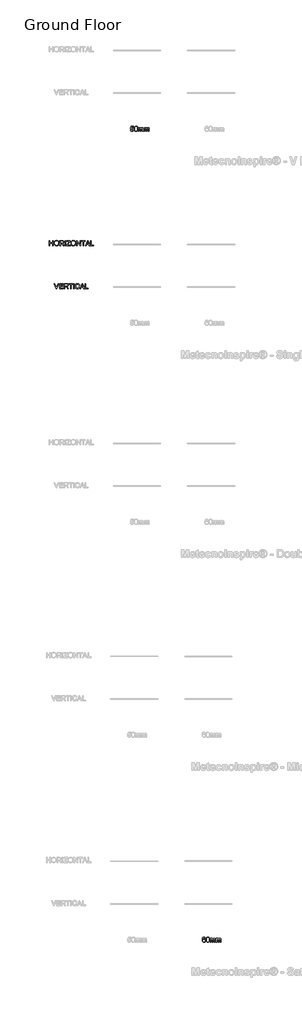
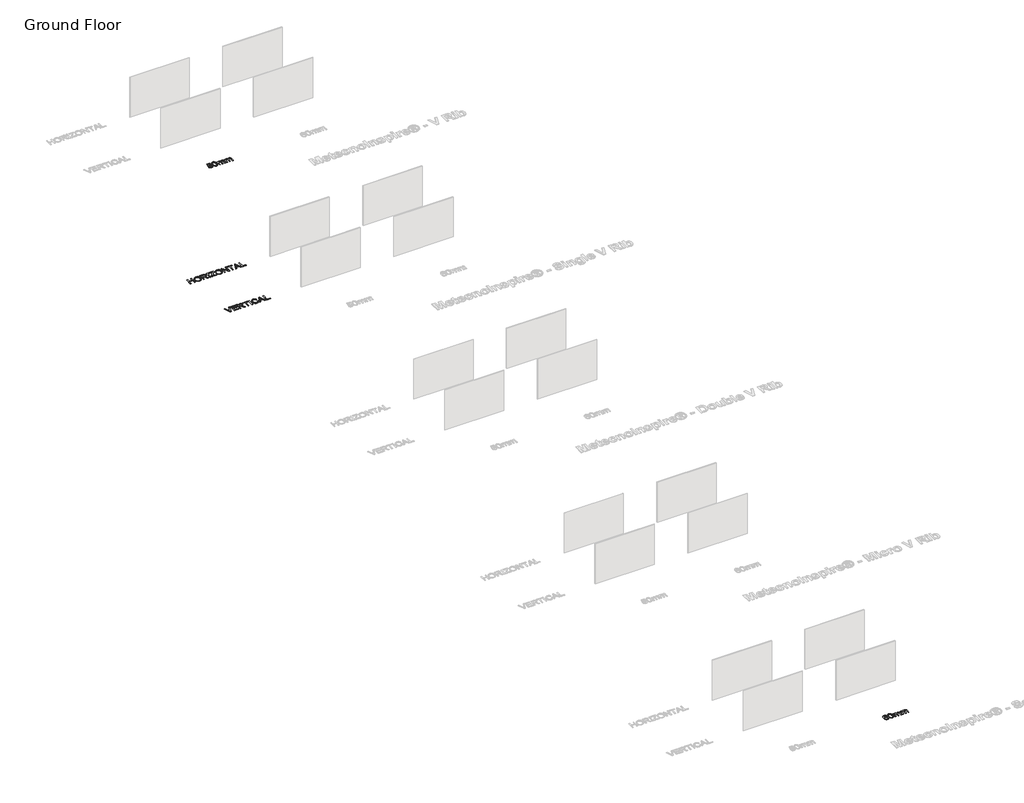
# One storey, part 4 of 14: 4 proxies.
"""IFC4 building model written with IfcOpenShell, lengths in millimetres."""

from ifc_helpers import new_model, si_unit, origin, origin_with_axes, place, context, project, spatial, polyline, outline, extrude, element, save

model = new_model("IFC4")

# Units and contexts
model_context = context("Model", 3, world=origin())
ifc_project = project(units=[si_unit("LENGTHUNIT", "METRE", prefix="MILLI")], contexts=[model_context])

# Site, building, storey
site = spatial("IfcSite", under=ifc_project)
building = spatial("IfcBuilding", under=site)
storey = spatial("IfcBuildingStorey", under=building, Name="Ground Floor", Elevation=0.0)

# Proxies
placement = place(None, origin())
element("IfcBuildingElementProxy", 1, Name="600mm Arial", ObjectType="600mm Arial", at=placement, inside=storey, context=model_context, shape_type="SweptSolid", body=[
    extrude(outline(polyline([(-7004.9680038, -2325.4851257), (-6929.6257712, -2316.0673466), (-6923.9971767, -2340.2877775), (-6915.7934082, -2361.2984379), (-6905.0144657, -2379.099328), (-6891.6603493, -2393.6904476), (-6875.7586501, -2405.0534027), (-6857.3369592, -2413.1697993), (-6836.3952766, -2418.0396372), (-6812.9336023, -2419.6629165), (-6784.2388067, -2417.4050407), (-6758.9285255, -2410.6314135), (-6737.0027585, -2399.3420348), (-6718.461506, -2383.5369045), (-6703.718635, -2363.9977721), (-6693.1880129, -2341.5063866), (-6686.8696396, -2316.0627481), (-6684.7635152, -2287.6668566), (-6686.7362824, -2260.8298651), (-6692.654584, -2236.9727177), (-6702.51842, -2216.0954144), (-6716.3277904, -2198.1979554), (-6734.1286805, -2183.8413605), (-6755.9670754, -2173.5866499), (-6781.8429752, -2167.4338235), (-6811.75638, -2165.3828814), (-6848.3054562, -2168.6570312), (-6877.9015627, -2178.4794804), (-6901.5379809, -2193.525854), (-6920.2079921, -2212.4717768), (-6995.5502248, -2203.0539977), (-6929.6257712, -1892.2672882), (-6637.6746198, -1892.2672882), (-6637.6746198, -1967.6095208), (-6868.7045128, -1967.6095208), (-6900.9309756, -2133.597877), (-6874.3423044, -2114.5415897), (-6847.1098397, -2100.9299559), (-6819.2335815, -2092.7629756), (-6790.7135298, -2090.0406488), (-6754.0218993, -2093.4159661), (-6720.3193101, -2103.541918), (-6689.605762, -2120.4185045), (-6661.8812551, -2144.0457257), (-6638.9300172, -2172.9796446), (-6622.5362757, -2205.7763245), (-6612.7000309, -2242.4357653), (-6609.4212826, -2282.9579671), (-6612.3735356, -2321.9902468), (-6621.2302947, -2358.3001997), (-6635.9915597, -2391.8878258), (-6656.6573308, -2422.7531252), (-6687.9640886, -2454.3633857), (-6724.4947707, -2476.9421431), (-6766.2493772, -2490.4893976), (-6813.2279079, -2495.0051491), (-6852.1084363, -2492.1034798), (-6887.2273713, -2483.3984721), (-6918.5847128, -2468.890126), (-6946.180461, -2448.5784413), (-6969.140896, -2423.4750936), (-6986.5922982, -2394.5917585), (-6998.5346674, -2361.9284359), (-7004.9680038, -2325.4851257)])), origin_with_axes(), (0.0, 0.0, 1.0), 20.0),
    extrude(outline(polyline([(-6543.4968291, -2189.0744819), (-6537.9602051, -2092.5974287), (-6531.039425, -2051.6843523), (-6521.350333, -2015.6549094), (-6508.9343156, -1984.2147944), (-6493.8327597, -1957.0697016), (-6476.0456653, -1934.2196312), (-6455.5730322, -1915.6645831), (-6432.3458828, -1901.3079882), (-6406.295239, -1891.0532776), (-6377.4211009, -1884.9004512), (-6345.7234685, -1882.8495091), (-6299.2967607, -1887.7055514), (-6257.7260952, -1902.2736785), (-6222.9612467, -1925.983673), (-6196.9519896, -1958.2653181), (-6177.3070911, -1998.8427022), (-6161.6353181, -2047.4399138), (-6151.3714104, -2109.1521184), (-6147.9501079, -2189.0744819), (-6153.4315496, -2284.9997121), (-6160.2833518, -2325.7748328), (-6169.8758748, -2361.7582904), (-6182.1953231, -2393.212201), (-6197.2279011, -2420.3986805), (-6214.9736089, -2443.3177288), (-6235.4324463, -2461.9693459), (-6258.6871869, -2476.4225098), (-6284.8206042, -2486.7461983), (-6313.832698, -2492.9404114), (-6345.7234685, -2495.0051491), (-6387.2205575, -2491.4182996), (-6424.008757, -2480.6577513), (-6456.088067, -2462.723504), (-6483.4584875, -2437.6155578), (-6509.7252619, -2392.2281167), (-6528.4872437, -2335.675457), (-6539.7444327, -2267.9575787), (-6543.4968291, -2189.0744819)]), holes=[polyline([(-6468.1545965, -2188.9273291), (-6465.9473045, -2254.4241198), (-6459.3254286, -2307.4405138), (-6448.2889687, -2347.9765112), (-6432.8379249, -2376.0321118), (-6414.1495196, -2395.1205889), (-6393.400975, -2408.7552153), (-6370.5922913, -2416.9359912), (-6345.7234685, -2419.6629165), (-6320.8546456, -2416.9267941), (-6298.0459619, -2408.7184271), (-6277.2974174, -2395.0378154), (-6258.609012, -2375.884959), (-6243.1579682, -2347.7833731), (-6232.1215084, -2307.2565728), (-6225.4996324, -2254.3045582), (-6223.2923405, -2188.9273291), (-6225.426056, -2125.1641823), (-6231.8272028, -2073.0812888), (-6242.4957806, -2032.6786487), (-6257.4317896, -2003.9562619), (-6275.8074953, -1983.9342843), (-6296.7951631, -1969.6328718), (-6320.3947931, -1961.0520242), (-6346.6063853, -1958.1917417), (-6371.3464494, -1960.7117334), (-6393.768857, -1968.2717084), (-6413.8736081, -1980.8716667), (-6431.6607025, -1998.5116084), (-6447.6267811, -2029.781578), (-6459.031123, -2071.9408546), (-6465.8737281, -2124.9894383), (-6468.1545965, -2188.9273291)])]), origin_with_axes(), (0.0, 0.0, 1.0), 20.0),
    extrude(outline(polyline([(-6063.1900962, -2485.58737), (-6063.1900962, -2042.9517534), (-5987.8478636, -2042.9517534), (-5987.8478636, -2115.7923885), (-5965.1863327, -2082.333521), (-5936.0500786, -2056.1219288), (-5901.4323829, -2039.180963), (-5862.3265268, -2033.5339743), (-5820.4247676, -2039.2913276), (-5802.5916878, -2046.4880191), (-5786.8371414, -2056.5633872), (-5761.7475893, -2084.2097192), (-5745.3400523, -2121.0898892), (-5717.8776614, -2082.7841764), (-5686.5525095, -2055.422953), (-5651.3645967, -2039.006219), (-5612.3139229, -2033.5339743), (-5582.1521978, -2035.8102442), (-5555.6784897, -2042.6390537), (-5532.8927987, -2054.0204029), (-5513.7951246, -2069.9542919), (-5498.6981672, -2090.6246615), (-5487.9146262, -2116.2154528), (-5481.4445016, -2146.7266657), (-5479.2877934, -2182.1583004), (-5479.2877934, -2485.58737), (-5554.630026, -2485.58737), (-5554.630026, -2214.531916), (-5556.3774655, -2176.9527702), (-5561.619784, -2151.6240948), (-5571.4422332, -2134.2784587), (-5586.9300652, -2120.6484308), (-5606.8508753, -2111.8192629), (-5629.9722587, -2108.8762069), (-5651.32321, -2110.7616022), (-5670.788766, -2116.4177879), (-5688.3689269, -2125.844764), (-5704.0636925, -2139.0425306), (-5716.971752, -2156.3973637), (-5726.1917945, -2178.2955394), (-5731.72382, -2204.7370578), (-5733.5678285, -2235.7219189), (-5733.5678285, -2485.58737), (-5808.9100611, -2485.58737), (-5808.9100611, -2206.1442065), (-5813.2694628, -2163.5434714), (-5818.7187148, -2146.8232348), (-5826.3476677, -2133.1564186), (-5836.459824, -2122.533826), (-5849.3586865, -2114.9462599), (-5865.044255, -2110.3937202), (-5883.5165297, -2108.8762069), (-5912.5424192, -2112.9229089), (-5939.2874402, -2125.0630147), (-5961.3603599, -2145.0022189), (-5976.3699453, -2172.4462157), (-5984.978384, -2210.5220022), (-5987.8478636, -2262.3565753), (-5987.8478636, -2485.58737), (-6063.1900962, -2485.58737)])), origin_with_axes(), (0.0, 0.0, 1.0), 20.0),
    extrude(outline(polyline([(-5366.2744445, -2485.58737), (-5366.2744445, -2042.9517534), (-5290.9322119, -2042.9517534), (-5290.9322119, -2115.7923885), (-5268.270681, -2082.333521), (-5239.134427, -2056.1219288), (-5204.5167312, -2039.180963), (-5165.4108751, -2033.5339743), (-5123.5091159, -2039.2913276), (-5105.6760362, -2046.4880191), (-5089.9214897, -2056.5633872), (-5064.8319377, -2084.2097192), (-5048.4244007, -2121.0898892), (-5020.9620097, -2082.7841764), (-4989.6368579, -2055.422953), (-4954.448945, -2039.006219), (-4915.3982712, -2033.5339743), (-4885.2365461, -2035.8102442), (-4858.7628381, -2042.6390537), (-4835.977147, -2054.0204029), (-4816.8794729, -2069.9542919), (-4801.7825155, -2090.6246615), (-4790.9989746, -2116.2154528), (-4784.52885, -2146.7266657), (-4782.3721418, -2182.1583004), (-4782.3721418, -2485.58737), (-4857.7143744, -2485.58737), (-4857.7143744, -2214.531916), (-4859.4618139, -2176.9527702), (-4864.7041323, -2151.6240948), (-4874.5265816, -2134.2784587), (-4890.0144136, -2120.6484308), (-4909.9352236, -2111.8192629), (-4933.056607, -2108.8762069), (-4954.4075583, -2110.7616022), (-4973.8731144, -2116.4177879), (-4991.4532752, -2125.844764), (-5007.1480408, -2139.0425306), (-5020.0561003, -2156.3973637), (-5029.2761428, -2178.2955394), (-5034.8081683, -2204.7370578), (-5036.6521768, -2235.7219189), (-5036.6521768, -2485.58737), (-5111.9944094, -2485.58737), (-5111.9944094, -2206.1442065), (-5116.3538111, -2163.5434714), (-5121.8030631, -2146.8232348), (-5129.432016, -2133.1564186), (-5139.5441724, -2122.533826), (-5152.4430348, -2114.9462599), (-5168.1286034, -2110.3937202), (-5186.6008781, -2108.8762069), (-5215.6267675, -2112.9229089), (-5242.3717885, -2125.0630147), (-5264.4447082, -2145.0022189), (-5279.4542937, -2172.4462157), (-5288.0627323, -2210.5220022), (-5290.9322119, -2262.3565753), (-5290.9322119, -2485.58737), (-5366.2744445, -2485.58737)])), origin_with_axes(), (0.0, 0.0, 1.0), 20.0),
])
element("IfcBuildingElementProxy", 2, Name="600mm Arial", ObjectType="600mm Arial", at=placement, inside=storey, context=model_context, shape_type="SweptSolid", body=[
    extrude(outline(polyline([(-15825.7847773, -21148.0040034), (-16065.6438382, -20545.2661425), (-15985.0041048, -20545.2661425), (-15824.4604021, -20979.5140496), (-15791.9396338, -21077.3706603), (-15759.8603238, -20979.5140496), (-15598.8751627, -20545.2661425), (-15518.2354294, -20545.2661425), (-15747.9409471, -21148.0040034), (-15825.7847773, -21148.0040034)])), origin_with_axes(), (0.0, 0.0, 1.0), 20.0),
    extrude(outline(polyline([(-15448.1906975, -21148.0040034), (-15448.1906975, -20545.2661425), (-15014.97286, -20545.2661425), (-15014.97286, -20620.6083751), (-15372.8484649, -20620.6083751), (-15372.8484649, -20799.5461775), (-15033.8084181, -20799.5461775), (-15033.8084181, -20874.8884102), (-15372.8484649, -20874.8884102), (-15372.8484649, -21072.6617708), (-15005.5550809, -21072.6617708), (-15005.5550809, -21148.0040034), (-15448.1906975, -21148.0040034)])), origin_with_axes(), (0.0, 0.0, 1.0), 20.0),
    extrude(outline(polyline([(-14892.541732, -21148.0040034), (-14892.541732, -20545.2661425), (-14632.8170434, -20545.2661425), (-14563.0114348, -20549.3312385), (-14512.2253253, -20561.5265267), (-14492.6264121, -20571.2202172), (-14475.106032, -20584.0409048), (-14459.6641853, -20599.9885893), (-14446.3008718, -20619.0632707), (-14435.5173308, -20640.2394781), (-14427.8148016, -20662.4917402), (-14423.193284, -20685.8200573), (-14421.6527781, -20710.2244291), (-14424.2049595, -20741.181699), (-14431.8615035, -20769.6005831), (-14444.6224102, -20795.4810815), (-14462.4876796, -20818.8231941), (-14485.6872379, -20838.8819599), (-14514.4510114, -20854.9124178), (-14548.7790001, -20866.9145679), (-14588.6712039, -20874.8884102), (-14563.8391693, -20891.1120061), (-14545.8497397, -20907.1148729), (-14514.9844403, -20943.7191315), (-14484.7813285, -20984.6643975), (-14384.2759674, -21148.0040034), (-14471.8318823, -21148.0040034), (-14550.2643237, -21023.0712778), (-14606.9181509, -20940.3714053), (-14627.9793951, -20916.2567405), (-14646.7229828, -20901.3023374), (-14682.5546891, -20886.9549396), (-14726.2590701, -20884.3061892), (-14817.1994994, -20884.3061892), (-14817.1994994, -21148.0040034), (-14892.541732, -21148.0040034)]), holes=[polyline([(-14817.1994994, -20808.9639566), (-14648.5623928, -20808.9639566), (-14600.1307281, -20806.2968122), (-14562.5515823, -20798.2953788), (-14534.2614569, -20784.4262275), (-14513.6968533, -20764.1559296), (-14501.1704714, -20739.6365946), (-14496.9950107, -20713.0203323), (-14498.986172, -20693.7525128), (-14504.9596559, -20676.268921), (-14514.9154624, -20660.5695568), (-14528.8535915, -20646.6544204), (-14547.09594, -20635.2592755), (-14569.9644045, -20627.1198864), (-14597.4589851, -20622.2362529), (-14629.5796818, -20620.6083751), (-14817.1994994, -20620.6083751), (-14817.1994994, -20808.9639566)])]), origin_with_axes(), (0.0, 0.0, 1.0), 20.0),
    extrude(outline(polyline([(-14139.1194058, -21148.0040034), (-14139.1194058, -20620.6083751), (-14336.8927664, -20620.6083751), (-14336.8927664, -20545.2661425), (-13866.0038126, -20545.2661425), (-13866.0038126, -20620.6083751), (-14063.7771732, -20620.6083751), (-14063.7771732, -21148.0040034), (-14139.1194058, -21148.0040034)])), origin_with_axes(), (0.0, 0.0, 1.0), 20.0),
    extrude(outline(polyline([(-13771.8260219, -21148.0040034), (-13771.8260219, -20545.2661425), (-13696.4837892, -20545.2661425), (-13696.4837892, -21148.0040034), (-13771.8260219, -21148.0040034)])), origin_with_axes(), (0.0, 0.0, 1.0), 20.0),
    extrude(outline(polyline([(-13121.9992656, -20933.7495294), (-13046.657033, -20953.1736987), (-13061.5654508, -21000.0280693), (-13081.4218815, -21040.9687369), (-13106.226325, -21075.9957013), (-13135.9787814, -21105.1089627), (-13170.0078659, -21127.9958214), (-13207.6421941, -21144.3435775), (-13248.8817657, -21154.1522312), (-13293.7265809, -21157.4217825), (-13339.6704436, -21154.947776), (-13381.1169489, -21147.5257568), (-13418.0660968, -21135.1557247), (-13450.5178873, -21117.8376798), (-13478.9183773, -21095.8291394), (-13503.7136238, -21069.387621), (-13524.9036267, -21038.5131246), (-13542.4883861, -21003.2056501), (-13556.2977565, -20964.9919078), (-13566.1615925, -20925.3986081), (-13572.0798941, -20884.4257509), (-13574.0526613, -20842.0733362), (-13571.8223767, -20796.6307127), (-13565.1315229, -20754.1863275), (-13553.9800999, -20714.7401806), (-13538.3681077, -20678.2922719), (-13518.6450343, -20645.4450083), (-13495.1603674, -20616.8007964), (-13467.9141071, -20592.3596364), (-13436.9062534, -20572.1215281), (-13403.1898686, -20556.2520186), (-13367.8180148, -20544.9166546), (-13330.7906919, -20538.1154362), (-13292.1079001, -20535.8483634), (-13249.0151229, -20538.7822223), (-13209.4999981, -20547.583799), (-13173.5625257, -20562.2530936), (-13141.2027057, -20582.790106), (-13112.953967, -20608.6522102), (-13089.3497385, -20639.2967804), (-13070.3900202, -20674.7238166), (-13056.074812, -20714.9333187), (-13131.4170447, -20732.88596), (-13143.281239, -20703.2576638), (-13157.5366663, -20677.942784), (-13174.1833266, -20656.9413206), (-13193.2212198, -20640.2532736), (-13214.7607107, -20627.5383522), (-13238.9121636, -20618.4562654), (-13265.6755788, -20613.0070134), (-13295.0509561, -20611.190596), (-13328.8501144, -20613.2047499), (-13359.7613991, -20619.2472117), (-13387.78481, -20629.3179813), (-13412.9203474, -20643.4170588), (-13434.8507128, -20660.9098477), (-13453.2586081, -20681.1617515), (-13468.1440334, -20704.1727703), (-13479.5069885, -20729.9429041), (-13493.9095686, -20785.0884151), (-13498.7104286, -20841.9261834), (-13493.0266518, -20911.5294569), (-13485.9219308, -20942.7994265), (-13475.9753213, -20971.7149513), (-13463.0258751, -20997.7012157), (-13446.9126437, -21020.1834042), (-13427.6356272, -21039.1615166), (-13405.1948255, -21054.635553), (-13380.680089, -21066.6423016), (-13355.1812682, -21075.2185506), (-13328.6983631, -21080.3643), (-13301.2313736, -21082.0795498), (-13268.4760805, -21079.7434992), (-13238.3419466, -21072.7353472), (-13210.8289718, -21061.0550938), (-13185.9371563, -21044.7027391), (-13164.2551112, -21023.7518595), (-13146.3714478, -20998.2760313), (-13132.2861659, -20968.2752546), (-13121.9992656, -20933.7495294)])), origin_with_axes(), (0.0, 0.0, 1.0), 20.0),
    extrude(outline(polyline([(-13013.2533478, -21148.0040034), (-12772.658523, -20545.2661425), (-12708.499903, -20545.2661425), (-12467.9050782, -21148.0040034), (-12547.5147419, -21148.0040034), (-12616.5294042, -20959.6484218), (-12864.7761745, -20959.6484218), (-12933.643684, -21148.0040034), (-13013.2533478, -21148.0040034)]), holes=[polyline([(-12837.1114485, -20884.3061892), (-12644.0469774, -20884.3061892), (-12698.3463599, -20736.1233216), (-12740.579213, -20620.6083751), (-12778.1031765, -20723.1738753), (-12837.1114485, -20884.3061892)])]), origin_with_axes(), (0.0, 0.0, 1.0), 20.0),
    extrude(outline(polyline([(-12387.4124976, -21148.0040034), (-12387.4124976, -20545.2661425), (-12312.070265, -20545.2661425), (-12312.070265, -21072.6617708), (-12010.7013345, -21072.6617708), (-12010.7013345, -21148.0040034), (-12387.4124976, -21148.0040034)])), origin_with_axes(), (0.0, 0.0, 1.0), 20.0),
])
element("IfcBuildingElementProxy", 3, Name="600mm Arial", ObjectType="600mm Arial", at=placement, inside=storey, context=model_context, shape_type="SweptSolid", body=[
    extrude(outline(polyline([(-16653.6664193, -16043.2040034), (-16653.6664193, -15440.4661425), (-16578.3241867, -15440.4661425), (-16578.3241867, -15685.3283985), (-16258.1196981, -15685.3283985), (-16258.1196981, -15440.4661425), (-16182.7774654, -15440.4661425), (-16182.7774654, -16043.2040034), (-16258.1196981, -16043.2040034), (-16258.1196981, -15760.6706311), (-16578.3241867, -15760.6706311), (-16578.3241867, -16043.2040034), (-16653.6664193, -16043.2040034)])), origin_with_axes(), (0.0, 0.0, 1.0), 20.0),
    extrude(outline(polyline([(-16079.1818956, -15749.781324), (-16074.1603064, -15679.0836016), (-16059.0955387, -15616.4976772), (-16033.9875925, -15562.0235507), (-16017.6674275, -15537.8284118), (-15998.8364679, -15515.6612223), (-15955.7482892, -15478.6430965), (-15906.8291809, -15452.2015781), (-15852.0791429, -15436.3366671), (-15791.4981754, -15431.0483634), (-15750.9483825, -15433.5315669), (-15712.4403346, -15440.9811773), (-15675.9740318, -15453.3971946), (-15641.5494741, -15470.7796189), (-15610.1323518, -15492.6042182), (-15582.6883549, -15518.3467609), (-15559.2174836, -15548.0072467), (-15539.7197379, -15581.5856758), (-15524.3974528, -15618.318693), (-15513.4529634, -15657.4429432), (-15506.8862698, -15698.9584264), (-15504.6973719, -15742.8651425), (-15507.0012329, -15787.3512728), (-15513.9128159, -15829.427776), (-15525.4321209, -15869.0946521), (-15541.5591479, -15906.3519012), (-15561.9122192, -15940.2154388), (-15586.1096575, -15969.7011807), (-15614.1514626, -15994.8091269), (-15646.0376345, -16015.5392773), (-15680.512776, -16031.7628733), (-15716.3214897, -16043.3511562), (-15753.4637756, -16050.3041259), (-15791.9396338, -16052.6217825), (-15833.1975995, -16050.0604041), (-15872.2114851, -16042.3762689), (-15908.9812905, -16029.5693769), (-15943.5070158, -16011.6397282), (-15974.88735, -15989.2816999), (-16002.2209822, -15963.1896694), (-16025.5079125, -15933.3636367), (-16044.7481409, -15899.8036017), (-16059.8129086, -15863.8569322), (-16070.5734569, -15826.8709961), (-16077.0297859, -15788.8457934), (-16079.1818956, -15749.781324)]), holes=[polyline([(-16003.839663, -15750.517088), (-16000.0734711, -15800.4662659), (-15988.7748953, -15844.8052434), (-15969.9439357, -15883.5340204), (-15943.5805922, -15916.652597), (-15911.5334719, -15943.1768889), (-15875.6511818, -15962.1228116), (-15835.9337219, -15973.4903653), (-15792.3810922, -15977.2795498), (-15748.0835014, -15973.4535771), (-15707.896992, -15961.9756588), (-15671.8215638, -15942.8457951), (-15639.857217, -15916.0639858), (-15613.6870115, -15882.2464334), (-15594.9940077, -15842.0093402), (-15583.7782053, -15795.3527062), (-15580.0396046, -15742.2765313), (-15581.6398912, -15707.7967913), (-15586.4407513, -15675.5795256), (-15594.4421847, -15645.6247341), (-15605.6441914, -15617.932417), (-15619.9226114, -15592.8658575), (-15637.1532843, -15570.7883393), (-15657.3362103, -15551.6998622), (-15680.4713892, -15535.6004264), (-15705.8414513, -15522.8211256), (-15732.7290266, -15513.6930536), (-15761.1341152, -15508.2162104), (-15791.056717, -15506.390596), (-15833.096432, -15509.9084676), (-15872.1011205, -15520.4620823), (-15908.0707826, -15538.0514402), (-15941.0054182, -15562.6765413), (-15968.4954003, -15595.5238049), (-15988.1311018, -15637.7796506), (-15999.9125227, -15689.4440783), (-16003.839663, -15750.517088)])]), origin_with_axes(), (0.0, 0.0, 1.0), 20.0),
    extrude(outline(polyline([(-15401.1018021, -16043.2040034), (-15401.1018021, -15440.4661425), (-15141.3771135, -15440.4661425), (-15071.5715049, -15444.5312385), (-15020.7853955, -15456.7265267), (-15001.1864822, -15466.4202172), (-14983.6661022, -15479.2409048), (-14968.2242554, -15495.1885893), (-14954.8609419, -15514.2632707), (-14944.077401, -15535.4394781), (-14936.3748717, -15557.6917402), (-14931.7533541, -15581.0200573), (-14930.2128483, -15605.4244291), (-14932.7650296, -15636.381699), (-14940.4215736, -15664.8005831), (-14953.1824803, -15690.6810815), (-14971.0477497, -15714.0231941), (-14994.2473081, -15734.0819599), (-15023.0110816, -15750.1124178), (-15057.3390702, -15762.1145679), (-15097.2312741, -15770.0884102), (-15072.3992394, -15786.3120061), (-15054.4098098, -15802.3148729), (-15023.5445104, -15838.9191315), (-14993.3413986, -15879.8643975), (-14892.8360376, -16043.2040034), (-14980.3919524, -16043.2040034), (-15058.8243938, -15918.2712778), (-15115.478221, -15835.5714053), (-15136.5394653, -15811.4567405), (-15155.2830529, -15796.5023374), (-15191.1147592, -15782.1549396), (-15234.8191403, -15779.5061892), (-15325.7595695, -15779.5061892), (-15325.7595695, -16043.2040034), (-15401.1018021, -16043.2040034)]), holes=[polyline([(-15325.7595695, -15704.1639566), (-15157.1224629, -15704.1639566), (-15108.6907982, -15701.4968122), (-15071.1116524, -15693.4953788), (-15042.821527, -15679.6262275), (-15022.2569235, -15659.3559296), (-15009.7305415, -15634.8365946), (-15005.5550809, -15608.2203323), (-15007.5462422, -15588.9525128), (-15013.5197261, -15571.468921), (-15023.4755326, -15555.7695568), (-15037.4136617, -15541.8544204), (-15055.6560101, -15530.4592755), (-15078.5244746, -15522.3198864), (-15106.0190552, -15517.4362529), (-15138.1397519, -15515.8083751), (-15325.7595695, -15515.8083751), (-15325.7595695, -15704.1639566)])]), origin_with_axes(), (0.0, 0.0, 1.0), 20.0),
    extrude(outline(polyline([(-14788.9461621, -16043.2040034), (-14788.9461621, -15440.4661425), (-14713.6039295, -15440.4661425), (-14713.6039295, -16043.2040034), (-14788.9461621, -16043.2040034)])), origin_with_axes(), (0.0, 0.0, 1.0), 20.0),
    extrude(outline(polyline([(-14610.0083597, -16043.2040034), (-14610.0083597, -15965.0658676), (-14301.7232477, -15587.6189406), (-14243.1564341, -15515.8083751), (-14572.3372434, -15515.8083751), (-14572.3372434, -15440.4661425), (-14148.5371849, -15440.4661425), (-14148.5371849, -15515.8083751), (-14485.9585509, -15928.8662793), (-14517.7435553, -15967.8617708), (-14139.1194058, -15967.8617708), (-14139.1194058, -16043.2040034), (-14610.0083597, -16043.2040034)])), origin_with_axes(), (0.0, 0.0, 1.0), 20.0),
    extrude(outline(polyline([(-14082.6127314, -15749.781324), (-14077.5911421, -15679.0836016), (-14062.5263744, -15616.4976772), (-14037.4184283, -15562.0235507), (-14021.0982633, -15537.8284118), (-14002.2673036, -15515.6612223), (-13959.179125, -15478.6430965), (-13910.2600166, -15452.2015781), (-13855.5099787, -15436.3366671), (-13794.9290112, -15431.0483634), (-13754.3792182, -15433.5315669), (-13715.8711704, -15440.9811773), (-13679.4048676, -15453.3971946), (-13644.9803099, -15470.7796189), (-13613.5631875, -15492.6042182), (-13586.1191907, -15518.3467609), (-13562.6483194, -15548.0072467), (-13543.1505737, -15581.5856758), (-13527.8282886, -15618.318693), (-13516.8837992, -15657.4429432), (-13510.3171056, -15698.9584264), (-13508.1282077, -15742.8651425), (-13510.4320687, -15787.3512728), (-13517.3436517, -15829.427776), (-13528.8629567, -15869.0946521), (-13544.9899836, -15906.3519012), (-13565.343055, -15940.2154388), (-13589.5404932, -15969.7011807), (-13617.5822983, -15994.8091269), (-13649.4684703, -16015.5392773), (-13683.9436117, -16031.7628733), (-13719.7523254, -16043.3511562), (-13756.8946114, -16050.3041259), (-13795.3704695, -16052.6217825), (-13836.6284353, -16050.0604041), (-13875.6423209, -16042.3762689), (-13912.4121263, -16029.5693769), (-13946.9378516, -16011.6397282), (-13978.3181857, -15989.2816999), (-14005.651818, -15963.1896694), (-14028.9387483, -15933.3636367), (-14048.1789766, -15899.8036017), (-14063.2437443, -15863.8569322), (-14074.0042927, -15826.8709961), (-14080.4606217, -15788.8457934), (-14082.6127314, -15749.781324)]), holes=[polyline([(-14007.2704988, -15750.517088), (-14003.5043068, -15800.4662659), (-13992.2057311, -15844.8052434), (-13973.3747714, -15883.5340204), (-13947.011428, -15916.652597), (-13914.9643077, -15943.1768889), (-13879.0820176, -15962.1228116), (-13839.3645576, -15973.4903653), (-13795.8119279, -15977.2795498), (-13751.5143372, -15973.4535771), (-13711.3278278, -15961.9756588), (-13675.2523996, -15942.8457951), (-13643.2880527, -15916.0639858), (-13617.1178473, -15882.2464334), (-13598.4248434, -15842.0093402), (-13587.2090411, -15795.3527062), (-13583.4704403, -15742.2765313), (-13585.070727, -15707.7967913), (-13589.871587, -15675.5795256), (-13597.8730204, -15645.6247341), (-13609.0750272, -15617.932417), (-13623.3534471, -15592.8658575), (-13640.5841201, -15570.7883393), (-13660.767046, -15551.6998622), (-13683.902225, -15535.6004264), (-13709.2722871, -15522.8211256), (-13736.1598624, -15513.6930536), (-13764.564951, -15508.2162104), (-13794.4875528, -15506.390596), (-13836.5272678, -15509.9084676), (-13875.5319563, -15520.4620823), (-13911.5016184, -15538.0514402), (-13944.436254, -15562.6765413), (-13971.9262361, -15595.5238049), (-13991.5619376, -15637.7796506), (-14003.3433585, -15689.4440783), (-14007.2704988, -15750.517088)])]), origin_with_axes(), (0.0, 0.0, 1.0), 20.0),
    extrude(outline(polyline([(-13404.5326379, -16043.2040034), (-13404.5326379, -15440.4661425), (-13323.8929045, -15440.4661425), (-13008.9859167, -15917.9769722), (-13008.9859167, -15440.4661425), (-12933.643684, -15440.4661425), (-12933.643684, -16043.2040034), (-13014.2834174, -16043.2040034), (-13329.1904053, -15565.5460208), (-13329.1904053, -16043.2040034), (-13404.5326379, -16043.2040034)])), origin_with_axes(), (0.0, 0.0, 1.0), 20.0),
    extrude(outline(polyline([(-12651.1103118, -16043.2040034), (-12651.1103118, -15515.8083751), (-12848.8836724, -15515.8083751), (-12848.8836724, -15440.4661425), (-12377.9947185, -15440.4661425), (-12377.9947185, -15515.8083751), (-12575.7680791, -15515.8083751), (-12575.7680791, -16043.2040034), (-12651.1103118, -16043.2040034)])), origin_with_axes(), (0.0, 0.0, 1.0), 20.0),
    extrude(outline(polyline([(-12363.4265915, -16043.2040034), (-12122.8317667, -15440.4661425), (-12058.6731467, -15440.4661425), (-11818.0783219, -16043.2040034), (-11897.6879856, -16043.2040034), (-11966.7026479, -15854.8484218), (-12214.9494183, -15854.8484218), (-12283.8169278, -16043.2040034), (-12363.4265915, -16043.2040034)]), holes=[polyline([(-12187.2846922, -15779.5061892), (-11994.2202212, -15779.5061892), (-12048.5196037, -15631.3233216), (-12090.7524567, -15515.8083751), (-12128.2764202, -15618.3738753), (-12187.2846922, -15779.5061892)])]), origin_with_axes(), (0.0, 0.0, 1.0), 20.0),
    extrude(outline(polyline([(-11737.5857413, -16043.2040034), (-11737.5857413, -15440.4661425), (-11662.2435087, -15440.4661425), (-11662.2435087, -15967.8617708), (-11360.8745783, -15967.8617708), (-11360.8745783, -16043.2040034), (-11737.5857413, -16043.2040034)])), origin_with_axes(), (0.0, 0.0, 1.0), 20.0),
])
element("IfcBuildingElementProxy", 4, Name="600mm Arial", ObjectType="600mm Arial", at=placement, inside=storey, context=model_context, shape_type="SweptSolid", body=[
    extrude(outline(polyline([(1909.1693094, -98197.0982382), (1833.8270768, -98206.5160173), (1821.6869709, -98169.1759948), (1805.279434, -98143.6817725), (1789.0834291, -98129.9689712), (1771.1031966, -98120.174113), (1751.3387364, -98114.2971982), (1729.7900485, -98112.3382265), (1694.7676826, -98116.8999633), (1661.8054558, -98130.5851735), (1633.4969363, -98159.4087278), (1610.3755529, -98199.084801), (1601.3394514, -98224.3904838), (1594.7589622, -98255.2051994), (1588.9648208, -98333.3617292), (1619.1863267, -98298.10024), (1655.4043091, -98273.2498112), (1695.5954171, -98258.5161373), (1737.7362996, -98253.6049127), (1773.935888, -98256.9618359), (1807.3395731, -98267.0326055), (1837.9473551, -98283.8172215), (1865.759234, -98307.315684), (1888.8714203, -98336.1300413), (1905.3801248, -98368.8623418), (1915.2853476, -98405.5125856), (1918.5870885, -98446.0807726), (1917.032787, -98473.547762), (1912.3698827, -98500.0306672), (1904.5983756, -98525.529488), (1893.7182656, -98550.0442244), (1880.1158288, -98572.6597701), (1864.1773414, -98592.4610185), (1845.9028033, -98609.4479696), (1825.2922145, -98623.6206234), (1802.7870334, -98634.7904405), (1778.8287185, -98642.7688813), (1753.4172697, -98647.5559458), (1726.552687, -98649.1516339), (1681.6388939, -98644.920991), (1641.0753054, -98632.2290621), (1604.8619215, -98611.0758474), (1572.9987422, -98581.4613468), (1547.0216748, -98542.1347615), (1528.4666267, -98491.8452928), (1517.3335978, -98430.5929406), (1513.6225882, -98358.3777049), (1517.7428665, -98277.4160748), (1530.1037016, -98208.3186391), (1550.7050933, -98151.0853977), (1564.0959979, -98126.9178499), (1579.5470417, -98105.7163506), (1610.8078143, -98075.6511946), (1647.0533878, -98054.1760831), (1688.2837624, -98041.2910162), (1734.4989381, -98036.9959939), (1769.1994073, -98039.6539413), (1800.6073326, -98047.6277836), (1828.7227141, -98060.9175207), (1853.5455517, -98079.5231526), (1874.4044608, -98102.8192799), (1890.6280568, -98130.1805033), (1902.2163397, -98161.6068227), (1909.1693094, -98197.0982382)]), holes=[polyline([(1588.9648208, -98444.9035502), (1593.3242224, -98478.2888412), (1606.4024274, -98510.1658161), (1626.7095135, -98537.5730248), (1652.7555588, -98557.5490171), (1684.1910752, -98569.7443052), (1720.6665751, -98573.8094013), (1746.8551746, -98571.7032769), (1770.3858267, -98565.3849036), (1791.2585314, -98554.8542815), (1809.4732887, -98540.1114105), (1824.2483493, -98521.754099), (1834.8019641, -98500.3801551), (1841.1341329, -98475.9895788), (1843.2448559, -98448.5823701), (1841.1617241, -98422.2466178), (1834.9123287, -98398.8631185), (1824.4966697, -98378.4318722), (1809.9147471, -98360.9528789), (1791.6448075, -98346.9503704), (1770.1650975, -98336.9485787), (1745.4756171, -98330.9475037), (1717.5763663, -98328.9471453), (1691.7372547, -98330.9475037), (1667.9306911, -98336.9485787), (1646.1566755, -98346.9503704), (1626.4152079, -98360.9528789), (1610.0306635, -98378.2019459), (1598.3274176, -98397.9434135), (1591.30547, -98420.1772816), (1588.9648208, -98444.9035502)])]), origin_with_axes(), (0.0, 0.0, 1.0), 20.0),
    extrude(outline(polyline([(1984.511542, -98343.2209667), (1990.048166, -98246.7439135), (1996.9689461, -98205.8308371), (2006.6580381, -98169.8013942), (2019.0740554, -98138.3612792), (2034.1756114, -98111.2161865), (2051.9627058, -98088.366116), (2072.4353388, -98069.8110679), (2095.6624883, -98055.454473), (2121.7131321, -98045.1997624), (2150.5872702, -98039.0469361), (2182.2849026, -98036.9959939), (2228.7116104, -98041.8520363), (2270.2822759, -98056.4201633), (2305.0471244, -98080.1301579), (2331.0563815, -98112.4118029), (2350.70128, -98152.989187), (2366.373053, -98201.5863986), (2376.6369607, -98263.2986033), (2380.0582632, -98343.2209667), (2374.5768215, -98439.146197), (2367.7250193, -98479.9213176), (2358.1324963, -98515.9047753), (2345.813048, -98547.3586858), (2330.78047, -98574.5451653), (2313.0347622, -98597.4642136), (2292.5759248, -98616.1158307), (2269.3211841, -98630.5689946), (2243.1877669, -98640.8926831), (2214.1756731, -98647.0868962), (2182.2849026, -98649.1516339), (2140.7878136, -98645.5647845), (2103.999614, -98634.8042361), (2071.9203041, -98616.8699888), (2044.5498836, -98591.7620427), (2018.2831092, -98546.3746015), (1999.5211274, -98489.8219418), (1988.2639384, -98422.1040635), (1984.511542, -98343.2209667)]), holes=[polyline([(2059.8537746, -98343.0738139), (2062.0610666, -98408.5706046), (2068.6829425, -98461.5869987), (2079.7194024, -98502.122996), (2095.1704462, -98530.1785967), (2113.8588515, -98549.2670737), (2134.607396, -98562.9017001), (2157.4160797, -98571.082476), (2182.2849026, -98573.8094013), (2207.1537255, -98571.073279), (2229.9624092, -98562.8649119), (2250.7109537, -98549.1843002), (2269.3993591, -98530.0314439), (2284.8504029, -98501.929858), (2295.8868627, -98461.4030577), (2302.5087386, -98408.451043), (2304.7160306, -98343.0738139), (2302.582315, -98279.3106671), (2296.1811683, -98227.2277736), (2285.5125905, -98186.8251335), (2270.5765815, -98158.1027467), (2252.2008758, -98138.0807692), (2231.213208, -98123.7793566), (2207.613578, -98115.1985091), (2181.4019858, -98112.3382265), (2156.6619216, -98114.8582182), (2134.239514, -98122.4181932), (2114.134763, -98135.0181515), (2096.3476685, -98152.6580932), (2080.3815899, -98183.9280628), (2068.9772481, -98226.0873395), (2062.134643, -98279.1359232), (2059.8537746, -98343.0738139)])]), origin_with_axes(), (0.0, 0.0, 1.0), 20.0),
    extrude(outline(polyline([(2464.8182749, -98639.7338548), (2464.8182749, -98197.0982382), (2540.1605075, -98197.0982382), (2540.1605075, -98269.9388733), (2562.8220384, -98236.4800058), (2591.9582924, -98210.2684137), (2626.5759882, -98193.3274478), (2665.6818443, -98187.6804592), (2707.5836035, -98193.4378124), (2725.4166832, -98200.6345039), (2741.1712297, -98210.7098721), (2766.2607818, -98238.356204), (2782.6683187, -98275.236374), (2810.1307097, -98236.9306613), (2841.4558616, -98209.5694379), (2876.6437744, -98193.1527038), (2915.6944482, -98187.6804592), (2945.8561733, -98189.956729), (2972.3298814, -98196.7855385), (2995.1155724, -98208.1668878), (3014.2132465, -98224.1007767), (3029.3102039, -98244.7711463), (3040.0937449, -98270.3619376), (3046.5638695, -98300.8731505), (3048.7205776, -98336.3047852), (3048.7205776, -98639.7338548), (2973.378345, -98639.7338548), (2973.378345, -98368.6784008), (2971.6309056, -98331.099255), (2966.3885871, -98305.7705796), (2956.5661379, -98288.4249435), (2941.0783059, -98274.7949156), (2921.1574958, -98265.9657477), (2898.0361124, -98263.0226918), (2876.6851611, -98264.908087), (2857.2196051, -98270.5642727), (2839.6394442, -98279.9912488), (2823.9446786, -98293.1890154), (2811.0366191, -98310.5438485), (2801.8165766, -98332.4420243), (2796.2845511, -98358.8835427), (2794.4405426, -98389.8684037), (2794.4405426, -98639.7338548), (2719.09831, -98639.7338548), (2719.09831, -98360.2906913), (2714.7389083, -98317.6899563), (2709.2896563, -98300.9697196), (2701.6607034, -98287.3029035), (2691.5485471, -98276.6803108), (2678.6496846, -98269.0927447), (2662.964116, -98264.540205), (2644.4918413, -98263.0226918), (2615.4659519, -98267.0693937), (2588.7209309, -98279.2094996), (2566.6480112, -98299.1487037), (2551.6384258, -98326.5927005), (2543.0299871, -98364.668487), (2540.1605075, -98416.5030602), (2540.1605075, -98639.7338548), (2464.8182749, -98639.7338548)])), origin_with_axes(), (0.0, 0.0, 1.0), 20.0),
    extrude(outline(polyline([(3161.7339266, -98639.7338548), (3161.7339266, -98197.0982382), (3237.0761592, -98197.0982382), (3237.0761592, -98269.9388733), (3259.7376901, -98236.4800058), (3288.8739441, -98210.2684137), (3323.4916398, -98193.3274478), (3362.5974959, -98187.6804592), (3404.4992552, -98193.4378124), (3422.3323349, -98200.6345039), (3438.0868813, -98210.7098721), (3463.1764334, -98238.356204), (3479.5839704, -98275.236374), (3507.0463613, -98236.9306613), (3538.3715132, -98209.5694379), (3573.5594261, -98193.1527038), (3612.6100999, -98187.6804592), (3642.7718249, -98189.956729), (3669.245533, -98196.7855385), (3692.0312241, -98208.1668878), (3711.1288982, -98224.1007767), (3726.2258555, -98244.7711463), (3737.0093965, -98270.3619376), (3743.4795211, -98300.8731505), (3745.6362293, -98336.3047852), (3745.6362293, -98639.7338548), (3670.2939967, -98639.7338548), (3670.2939967, -98368.6784008), (3668.5465572, -98331.099255), (3663.3042388, -98305.7705796), (3653.4817895, -98288.4249435), (3637.9939575, -98274.7949156), (3618.0731475, -98265.9657477), (3594.9517641, -98263.0226918), (3573.6008128, -98264.908087), (3554.1352567, -98270.5642727), (3536.5550959, -98279.9912488), (3520.8603303, -98293.1890154), (3507.9522708, -98310.5438485), (3498.7322282, -98332.4420243), (3493.2002027, -98358.8835427), (3491.3561942, -98389.8684037), (3491.3561942, -98639.7338548), (3416.0139616, -98639.7338548), (3416.0139616, -98360.2906913), (3411.65456, -98317.6899563), (3406.2053079, -98300.9697196), (3398.5763551, -98287.3029035), (3388.4641987, -98276.6803108), (3375.5653363, -98269.0927447), (3359.8797677, -98264.540205), (3341.407493, -98263.0226918), (3312.3816036, -98267.0693937), (3285.6365825, -98279.2094996), (3263.5636628, -98299.1487037), (3248.5540774, -98326.5927005), (3239.9456387, -98364.668487), (3237.0761592, -98416.5030602), (3237.0761592, -98639.7338548), (3161.7339266, -98639.7338548)])), origin_with_axes(), (0.0, 0.0, 1.0), 20.0),
])

save(model, "model.ifc")
